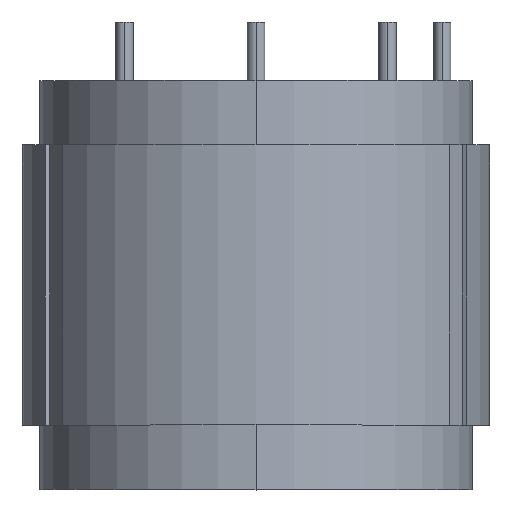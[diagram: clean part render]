
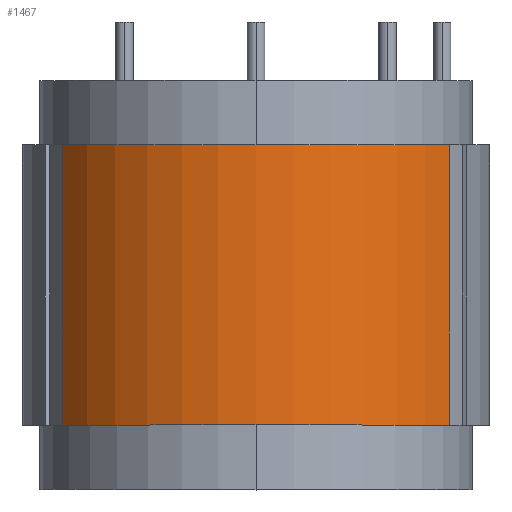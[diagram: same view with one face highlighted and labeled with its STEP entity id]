
A CAD part, top view. The second image highlights one B-rep face of the part: STEP entity #1467.
In plain terms, the highlighted cylindrical face has radius 20 mm (diameter 40 mm), a partial arc.
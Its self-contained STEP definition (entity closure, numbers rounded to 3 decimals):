
#10 = LINE ( 'NONE', #1208, #1060 ) ;
#11 = AXIS2_PLACEMENT_3D ( 'NONE', #618, #146, #963 ) ;
#138 = DIRECTION ( 'NONE',  ( 0., -1., 0. ) ) ;
#146 = DIRECTION ( 'NONE',  ( 0., 1., 0. ) ) ;
#193 = EDGE_CURVE ( 'NONE', #573, #593, #1485, .T. ) ;
#198 = CARTESIAN_POINT ( 'NONE',  ( 24.009, 9.019, 45.776 ) ) ;
#286 = VERTEX_POINT ( 'NONE', #198 ) ;
#289 = CIRCLE ( 'NONE', #11, 20. ) ;
#301 = VERTEX_POINT ( 'NONE', #1382 ) ;
#361 = CARTESIAN_POINT ( 'NONE',  ( 7.488, 33.019, 34.505 ) ) ;
#384 = AXIS2_PLACEMENT_3D ( 'NONE', #584, #1300, #946 ) ;
#403 = DIRECTION ( 'NONE',  ( 0., 1., 0. ) ) ;
#421 = EDGE_CURVE ( 'NONE', #286, #593, #10, .T. ) ;
#528 = CARTESIAN_POINT ( 'NONE',  ( 24.009, 33.019, 45.776 ) ) ;
#573 = VERTEX_POINT ( 'NONE', #1512 ) ;
#584 = CARTESIAN_POINT ( 'NONE',  ( 7.488, 33.019, 34.505 ) ) ;
#593 = VERTEX_POINT ( 'NONE', #528 ) ;
#618 = CARTESIAN_POINT ( 'NONE',  ( 7.488, 9.019, 34.505 ) ) ;
#628 = ORIENTED_EDGE ( 'NONE', *, *, #987, .T. ) ;
#776 = ORIENTED_EDGE ( 'NONE', *, *, #1066, .F. ) ;
#809 = AXIS2_PLACEMENT_3D ( 'NONE', #361, #138, #1465 ) ;
#946 = DIRECTION ( 'NONE',  ( 0., 0., 1. ) ) ;
#962 = CYLINDRICAL_SURFACE ( 'NONE', #809, 20. ) ;
#963 = DIRECTION ( 'NONE',  ( 0., 0., 1. ) ) ;
#987 = EDGE_CURVE ( 'NONE', #301, #286, #289, .T. ) ;
#1017 = ORIENTED_EDGE ( 'NONE', *, *, #193, .F. ) ;
#1060 = VECTOR ( 'NONE', #403, 1000. ) ;
#1066 = EDGE_CURVE ( 'NONE', #301, #573, #1315, .T. ) ;
#1073 = ORIENTED_EDGE ( 'NONE', *, *, #421, .T. ) ;
#1106 = FACE_OUTER_BOUND ( 'NONE', #1269, .T. ) ;
#1118 = DIRECTION ( 'NONE',  ( 0., 1., 0. ) ) ;
#1208 = CARTESIAN_POINT ( 'NONE',  ( 24.009, 9.019, 45.776 ) ) ;
#1269 = EDGE_LOOP ( 'NONE', ( #1017, #776, #628, #1073 ) ) ;
#1285 = VECTOR ( 'NONE', #1118, 1000. ) ;
#1300 = DIRECTION ( 'NONE',  ( 0., 1., 0. ) ) ;
#1315 = LINE ( 'NONE', #1459, #1285 ) ;
#1382 = CARTESIAN_POINT ( 'NONE',  ( -9.034, 9.019, 45.776 ) ) ;
#1459 = CARTESIAN_POINT ( 'NONE',  ( -9.034, 9.019, 45.776 ) ) ;
#1465 = DIRECTION ( 'NONE',  ( 0., 0., -1. ) ) ;
#1467 = ADVANCED_FACE ( 'NONE', ( #1106 ), #962, .T. ) ;
#1485 = CIRCLE ( 'NONE', #384, 20. ) ;
#1512 = CARTESIAN_POINT ( 'NONE',  ( -9.034, 33.019, 45.776 ) ) ;
